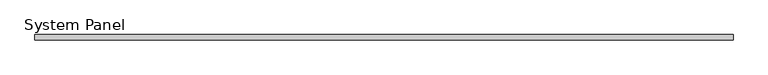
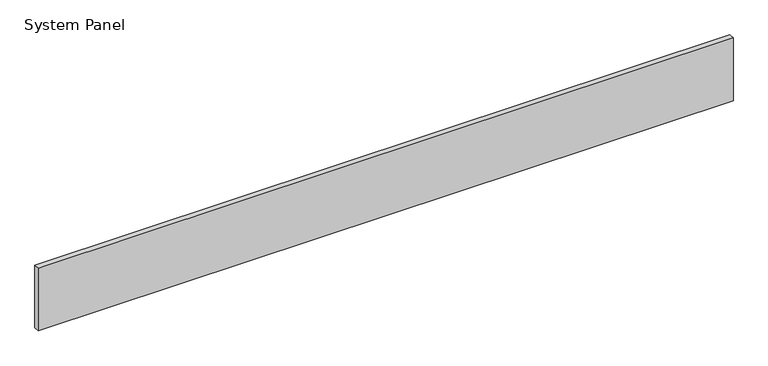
"""IFC4 building model written with IfcOpenShell, lengths in millimetres: plate geometry, System Panel : VACÍO."""

from ifc_helpers import new_model, si_unit, origin, origin_with_axes, place, context, project, spatial, polyline, outline, extrude, source, transform, mapped, element, save


def system_panel_f1ade770(model_context):
    return source(origin(), model_context, "Body", "SweptSolid", [
        extrude(outline(polyline([(646.0553093, -5.0), (-646.0553093, -5.0), (-646.0553093, 5.0), (646.0553093, 5.0), (646.0553093, -5.0)])), origin_with_axes(), (0.0, 0.0, 1.0), 122.8888889),
    ])


if __name__ == "__main__":
    model = new_model("IFC4")
    model_context = context("Model", 3, world=origin())
    ifc_project = project(units=[si_unit("LENGTHUNIT", "METRE", prefix="MILLI")], contexts=[model_context])
    site = spatial("IfcSite", under=ifc_project)
    building = spatial("IfcBuilding", under=site)
    placement = place(None, origin())
    system_panel_shape = system_panel_f1ade770(model_context)
    element("IfcPlate", 1, ObjectType="System Panel : VACÍO", at=placement, inside=building, context=model_context, shape_type="MappedRepresentation", body=[
        mapped(system_panel_shape, transform((0.0, 0.0, 0.0), x_axis=(1.0, 0.0, 0.0), y_axis=(0.0, 1.0, 0.0), z_axis=(0.0, 0.0, 1.0))),
    ])
    save(model, "model.ifc")
